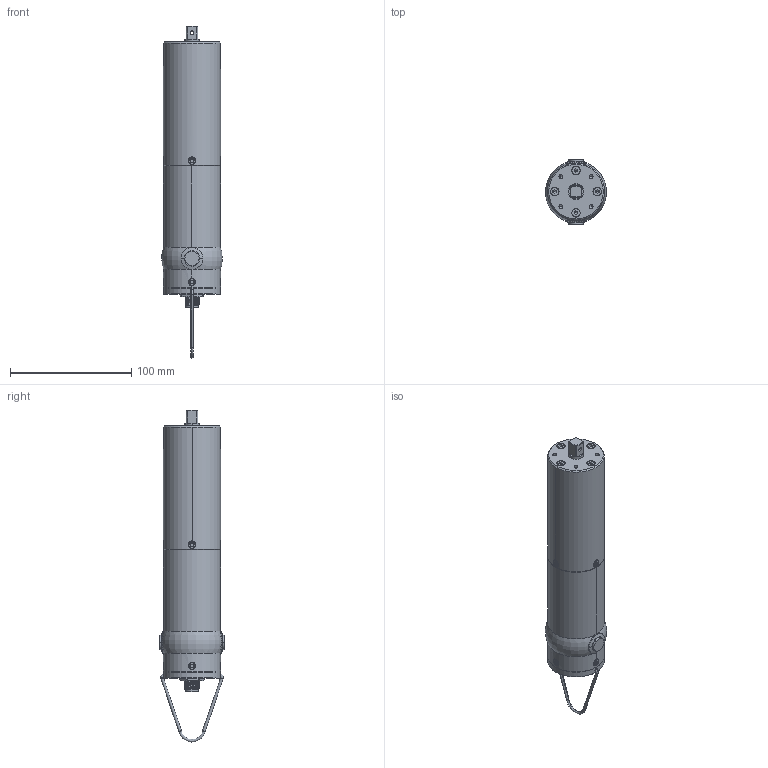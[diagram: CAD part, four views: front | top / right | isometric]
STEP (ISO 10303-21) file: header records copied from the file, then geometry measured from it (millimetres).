
FILE_DESCRIPTION (( 'STEP AP214' ), '1' );
FILE_NAME ('Pluto 20CA-SR.STEP', '2014-07-01T12:03:51', ( 'davide' ), ( '' ), 'SwSTEP 2.0', 'SolidWorks 2014', '' );
FILE_SCHEMA (( 'AUTOMOTIVE_DESIGN' ));
Length unit declared in the file: millimetre
Products named in the file (1): Pluto 20CA-SR
Bounding box: 50.12 x 53.48 x 273.7 mm (x, y, z)
Volume: 221347 mm3; surface area: 91426.4 mm2
Topology: 21 solids, 21 shells, 747 faces, 1804 edges, 1104 vertices
Faces by surface type: cylinder 370, plane 196, cone 102, torus 44, bspline 35
Entity records: 42921 total; most frequent: CARTESIAN_POINT 17257, DIRECTION 3709, ORIENTED_EDGE 3540, EDGE_CURVE 1770, AXIS2_PLACEMENT_3D 1508, VERTEX_POINT 1104, EDGE_LOOP 840, CIRCLE 795
